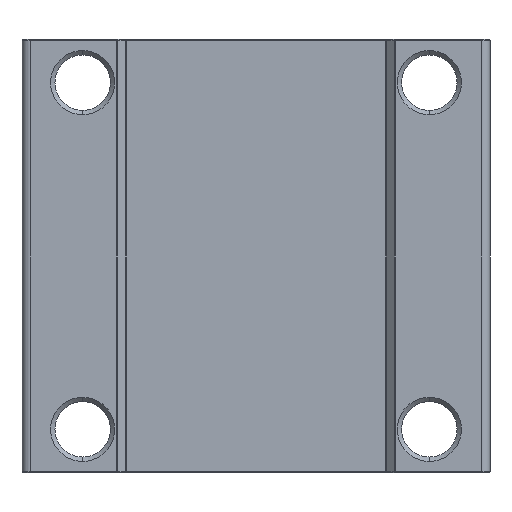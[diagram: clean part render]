
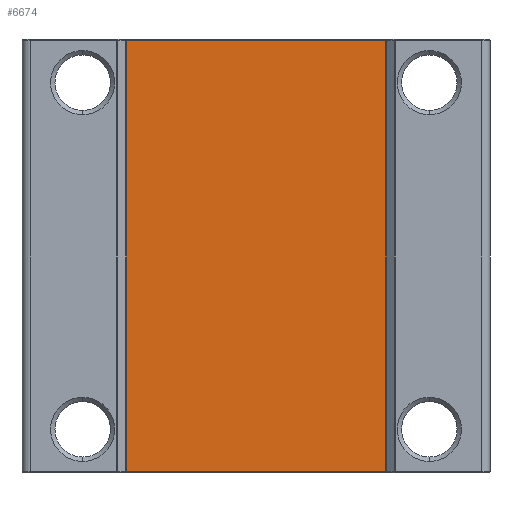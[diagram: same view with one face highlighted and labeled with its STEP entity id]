
A CAD part, front view. The second image highlights one B-rep face of the part: STEP entity #6674.
In plain terms, the highlighted planar face has unit normal (0, -1, 0).
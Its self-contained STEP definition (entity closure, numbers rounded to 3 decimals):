
#153 = VERTEX_POINT ( 'NONE', #1769 ) ;
#872 = DIRECTION ( 'NONE',  ( 0., 0., 1. ) ) ;
#1289 = CARTESIAN_POINT ( 'NONE',  ( -15., -20.05, 49.85 ) ) ;
#1576 = VECTOR ( 'NONE', #872, 1000. ) ;
#1712 = EDGE_CURVE ( 'NONE', #6925, #10030, #3924, .T. ) ;
#1769 = CARTESIAN_POINT ( 'NONE',  ( -14.942, -20.05, 0.15 ) ) ;
#2123 = VECTOR ( 'NONE', #12949, 1000. ) ;
#2265 = FACE_OUTER_BOUND ( 'NONE', #8777, .T. ) ;
#3107 = CARTESIAN_POINT ( 'NONE',  ( 14.942, -20.05, 0.15 ) ) ;
#3196 = CARTESIAN_POINT ( 'NONE',  ( -15., -20.05, 50. ) ) ;
#3737 = DIRECTION ( 'NONE',  ( 0., 0., -1. ) ) ;
#3924 = LINE ( 'NONE', #1289, #12699 ) ;
#4994 = LINE ( 'NONE', #6437, #1576 ) ;
#5516 = DIRECTION ( 'NONE',  ( -1., 0., 0. ) ) ;
#5531 = LINE ( 'NONE', #10634, #2123 ) ;
#6069 = EDGE_CURVE ( 'NONE', #7995, #6925, #4994, .T. ) ;
#6437 = CARTESIAN_POINT ( 'NONE',  ( 14.942, -20.05, 50. ) ) ;
#6593 = ORIENTED_EDGE ( 'NONE', *, *, #6069, .T. ) ;
#6674 = ADVANCED_FACE ( 'NONE', ( #2265 ), #10069, .F. ) ;
#6925 = VERTEX_POINT ( 'NONE', #9460 ) ;
#7995 = VERTEX_POINT ( 'NONE', #3107 ) ;
#8777 = EDGE_LOOP ( 'NONE', ( #10278, #6593, #9484, #12036 ) ) ;
#9460 = CARTESIAN_POINT ( 'NONE',  ( 14.942, -20.05, 49.85 ) ) ;
#9484 = ORIENTED_EDGE ( 'NONE', *, *, #1712, .T. ) ;
#10030 = VERTEX_POINT ( 'NONE', #11718 ) ;
#10069 = PLANE ( 'NONE',  #11539 ) ;
#10278 = ORIENTED_EDGE ( 'NONE', *, *, #14210, .T. ) ;
#10634 = CARTESIAN_POINT ( 'NONE',  ( 15., -20.05, 0.15 ) ) ;
#11507 = LINE ( 'NONE', #11756, #14550 ) ;
#11539 = AXIS2_PLACEMENT_3D ( 'NONE', #3196, #12380, #5516 ) ;
#11718 = CARTESIAN_POINT ( 'NONE',  ( -14.942, -20.05, 49.85 ) ) ;
#11756 = CARTESIAN_POINT ( 'NONE',  ( -14.942, -20.05, 0. ) ) ;
#12036 = ORIENTED_EDGE ( 'NONE', *, *, #12851, .T. ) ;
#12380 = DIRECTION ( 'NONE',  ( 0., 1., 0. ) ) ;
#12533 = DIRECTION ( 'NONE',  ( -1., 0., 0. ) ) ;
#12699 = VECTOR ( 'NONE', #12533, 1000. ) ;
#12851 = EDGE_CURVE ( 'NONE', #10030, #153, #11507, .T. ) ;
#12949 = DIRECTION ( 'NONE',  ( 1., 0., 0. ) ) ;
#14210 = EDGE_CURVE ( 'NONE', #153, #7995, #5531, .T. ) ;
#14550 = VECTOR ( 'NONE', #3737, 1000. ) ;
